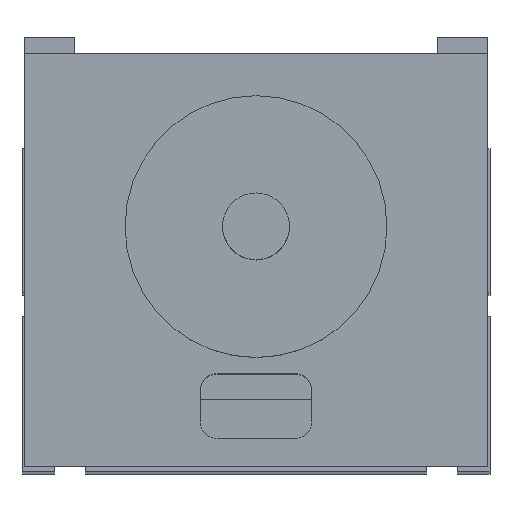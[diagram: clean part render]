
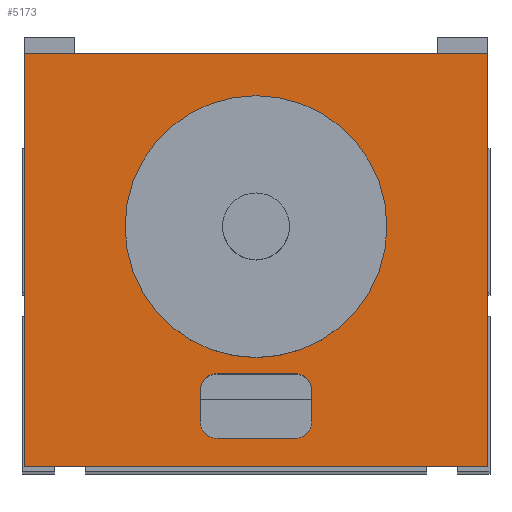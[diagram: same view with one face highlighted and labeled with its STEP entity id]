
A CAD part, top view. The second image highlights one B-rep face of the part: STEP entity #5173.
In plain terms, the highlighted planar face has unit normal (0, 0, 1).
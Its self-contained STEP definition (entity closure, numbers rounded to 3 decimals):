
#1196 = CARTESIAN_POINT ( 'NONE',  ( 0., 0., 30. ) ) ;
#1275 = LINE ( 'NONE', #1286, #1334 ) ;
#1286 = CARTESIAN_POINT ( 'NONE',  ( 0., 0., 30. ) ) ;
#1301 = CARTESIAN_POINT ( 'NONE',  ( 83., 0., 30. ) ) ;
#1333 = DIRECTION ( 'NONE',  ( 1., 0., 0. ) ) ;
#1334 = VECTOR ( 'NONE', #1333, 1000. ) ;
#1375 = AXIS2_PLACEMENT_3D ( 'NONE', #1381, #1426, #1425 ) ;
#1378 = CIRCLE ( 'NONE', #1375, 3. ) ;
#1381 = CARTESIAN_POINT ( 'NONE',  ( 48.5, 13.6, 30. ) ) ;
#1389 = DIRECTION ( 'NONE',  ( 0., -1., 0. ) ) ;
#1390 = VECTOR ( 'NONE', #1389, 1000. ) ;
#1391 = CARTESIAN_POINT ( 'NONE',  ( 0., 0., 30. ) ) ;
#1394 = LINE ( 'NONE', #1391, #1390 ) ;
#1406 = DIRECTION ( 'NONE',  ( 0., 1., 0. ) ) ;
#1407 = VECTOR ( 'NONE', #1406, 1000. ) ;
#1408 = CARTESIAN_POINT ( 'NONE',  ( 83., 0., 30. ) ) ;
#1409 = LINE ( 'NONE', #1408, #1407 ) ;
#1420 = CARTESIAN_POINT ( 'NONE',  ( 0., 74., 30. ) ) ;
#1421 = CARTESIAN_POINT ( 'NONE',  ( 34.5, 16.6, 30. ) ) ;
#1422 = CARTESIAN_POINT ( 'NONE',  ( 83., 74., 30. ) ) ;
#1425 = DIRECTION ( 'NONE',  ( 1., 0., 0. ) ) ;
#1426 = DIRECTION ( 'NONE',  ( 0., 0., 1. ) ) ;
#1431 = DIRECTION ( 'NONE',  ( -1., 0., 0. ) ) ;
#1432 = VECTOR ( 'NONE', #1431, 1000. ) ;
#1433 = CARTESIAN_POINT ( 'NONE',  ( 34.5, 16.6, 30. ) ) ;
#1434 = LINE ( 'NONE', #1433, #1432 ) ;
#1446 = DIRECTION ( 'NONE',  ( -1., 0., 0. ) ) ;
#1447 = VECTOR ( 'NONE', #1446, 1000. ) ;
#1448 = CARTESIAN_POINT ( 'NONE',  ( 0., 74., 30. ) ) ;
#1450 = LINE ( 'NONE', #1448, #1447 ) ;
#1466 = AXIS2_PLACEMENT_3D ( 'NONE', #1525, #1511, #1510 ) ;
#1470 = CARTESIAN_POINT ( 'NONE',  ( 34.5, 5., 30. ) ) ;
#1472 = CARTESIAN_POINT ( 'NONE',  ( 48.5, 16.6, 30. ) ) ;
#1478 = CIRCLE ( 'NONE', #1466, 3. ) ;
#1479 = DIRECTION ( 'NONE',  ( -1., 0., 0. ) ) ;
#1480 = DIRECTION ( 'NONE',  ( 0., 0., 1. ) ) ;
#1481 = CARTESIAN_POINT ( 'NONE',  ( 34.5, 13.6, 30. ) ) ;
#1482 = AXIS2_PLACEMENT_3D ( 'NONE', #1481, #1480, #1479 ) ;
#1490 = CIRCLE ( 'NONE', #1482, 3. ) ;
#1495 = AXIS2_PLACEMENT_3D ( 'NONE', #1507, #1549, #1548 ) ;
#1497 = CIRCLE ( 'NONE', #1495, 3. ) ;
#1507 = CARTESIAN_POINT ( 'NONE',  ( 48.5, 8., 30. ) ) ;
#1510 = DIRECTION ( 'NONE',  ( 1., 0., 0. ) ) ;
#1511 = DIRECTION ( 'NONE',  ( 0., 0., 1. ) ) ;
#1525 = CARTESIAN_POINT ( 'NONE',  ( 34.5, 8., 30. ) ) ;
#1532 = CARTESIAN_POINT ( 'NONE',  ( 31.5, 13.6, 30. ) ) ;
#1548 = DIRECTION ( 'NONE',  ( -1., 0., 0. ) ) ;
#1549 = DIRECTION ( 'NONE',  ( 0., 0., 1. ) ) ;
#2369 = VECTOR ( 'NONE', #2375, 1000. ) ;
#2375 = DIRECTION ( 'NONE',  ( 1., 0., 0. ) ) ;
#3111 = AXIS2_PLACEMENT_3D ( 'NONE', #3160, #3159, #3158 ) ;
#3118 = PLANE ( 'NONE',  #3111 ) ;
#3143 = CARTESIAN_POINT ( 'NONE',  ( 34.5, 5., 30. ) ) ;
#3158 = DIRECTION ( 'NONE',  ( -1., 0., 0. ) ) ;
#3159 = DIRECTION ( 'NONE',  ( 0., 0., -1. ) ) ;
#3160 = CARTESIAN_POINT ( 'NONE',  ( 0., 74., 30. ) ) ;
#3167 = FACE_BOUND ( 'NONE', #4024, .T. ) ;
#3168 = LINE ( 'NONE', #3143, #2369 ) ;
#3169 = FACE_OUTER_BOUND ( 'NONE', #5184, .T. ) ;
#3204 = CARTESIAN_POINT ( 'NONE',  ( 48.5, 5., 30. ) ) ;
#3539 = VECTOR ( 'NONE', #3586, 1000. ) ;
#3540 = CARTESIAN_POINT ( 'NONE',  ( 51.5, 8., 30. ) ) ;
#3548 = CARTESIAN_POINT ( 'NONE',  ( 51.5, 8., 30. ) ) ;
#3586 = DIRECTION ( 'NONE',  ( 0., 1., 0. ) ) ;
#3588 = CARTESIAN_POINT ( 'NONE',  ( 51.5, 13.6, 30. ) ) ;
#3592 = LINE ( 'NONE', #3540, #3539 ) ;
#3609 = CARTESIAN_POINT ( 'NONE',  ( 31.5, 8., 30. ) ) ;
#3627 = DIRECTION ( 'NONE',  ( 0., -1., 0. ) ) ;
#3628 = VECTOR ( 'NONE', #3627, 1000. ) ;
#3629 = CARTESIAN_POINT ( 'NONE',  ( 31.5, 8., 30. ) ) ;
#3630 = LINE ( 'NONE', #3629, #3628 ) ;
#3863 = VERTEX_POINT ( 'NONE', #1196 ) ;
#3924 = VERTEX_POINT ( 'NONE', #1301 ) ;
#3939 = EDGE_CURVE ( 'NONE', #3863, #3924, #1275, .T. ) ;
#3973 = EDGE_CURVE ( 'NONE', #4003, #3863, #1394, .T. ) ;
#3986 = EDGE_CURVE ( 'NONE', #5385, #4045, #1378, .T. ) ;
#3997 = VERTEX_POINT ( 'NONE', #1421 ) ;
#3999 = EDGE_CURVE ( 'NONE', #3924, #4004, #1409, .T. ) ;
#4000 = ORIENTED_EDGE ( 'NONE', *, *, #3999, .T. ) ;
#4002 = ORIENTED_EDGE ( 'NONE', *, *, #3973, .T. ) ;
#4003 = VERTEX_POINT ( 'NONE', #1420 ) ;
#4004 = VERTEX_POINT ( 'NONE', #1422 ) ;
#4005 = ORIENTED_EDGE ( 'NONE', *, *, #5384, .F. ) ;
#4006 = ORIENTED_EDGE ( 'NONE', *, *, #3939, .T. ) ;
#4022 = EDGE_CURVE ( 'NONE', #4004, #4003, #1450, .T. ) ;
#4024 = EDGE_LOOP ( 'NONE', ( #4046, #4047, #4030, #4005, #4083, #4065, #4067, #4062 ) ) ;
#4028 = EDGE_CURVE ( 'NONE', #4045, #3997, #1434, .T. ) ;
#4029 = ORIENTED_EDGE ( 'NONE', *, *, #4022, .T. ) ;
#4030 = ORIENTED_EDGE ( 'NONE', *, *, #3986, .F. ) ;
#4042 = EDGE_CURVE ( 'NONE', #3997, #4093, #1490, .T. ) ;
#4045 = VERTEX_POINT ( 'NONE', #1472 ) ;
#4046 = ORIENTED_EDGE ( 'NONE', *, *, #4042, .F. ) ;
#4047 = ORIENTED_EDGE ( 'NONE', *, *, #4028, .F. ) ;
#4048 = VERTEX_POINT ( 'NONE', #1470 ) ;
#4058 = EDGE_CURVE ( 'NONE', #5411, #4048, #1478, .T. ) ;
#4062 = ORIENTED_EDGE ( 'NONE', *, *, #5398, .F. ) ;
#4065 = ORIENTED_EDGE ( 'NONE', *, *, #5178, .F. ) ;
#4067 = ORIENTED_EDGE ( 'NONE', *, *, #4058, .F. ) ;
#4078 = EDGE_CURVE ( 'NONE', #5182, #5380, #1497, .T. ) ;
#4083 = ORIENTED_EDGE ( 'NONE', *, *, #4078, .F. ) ;
#4093 = VERTEX_POINT ( 'NONE', #1532 ) ;
#5173 = ADVANCED_FACE ( 'NONE', ( #3169, #3167 ), #3118, .F. ) ;
#5178 = EDGE_CURVE ( 'NONE', #4048, #5182, #3168, .T. ) ;
#5182 = VERTEX_POINT ( 'NONE', #3204 ) ;
#5184 = EDGE_LOOP ( 'NONE', ( #4002, #4006, #4000, #4029 ) ) ;
#5380 = VERTEX_POINT ( 'NONE', #3548 ) ;
#5384 = EDGE_CURVE ( 'NONE', #5380, #5385, #3592, .T. ) ;
#5385 = VERTEX_POINT ( 'NONE', #3588 ) ;
#5398 = EDGE_CURVE ( 'NONE', #4093, #5411, #3630, .T. ) ;
#5411 = VERTEX_POINT ( 'NONE', #3609 ) ;
